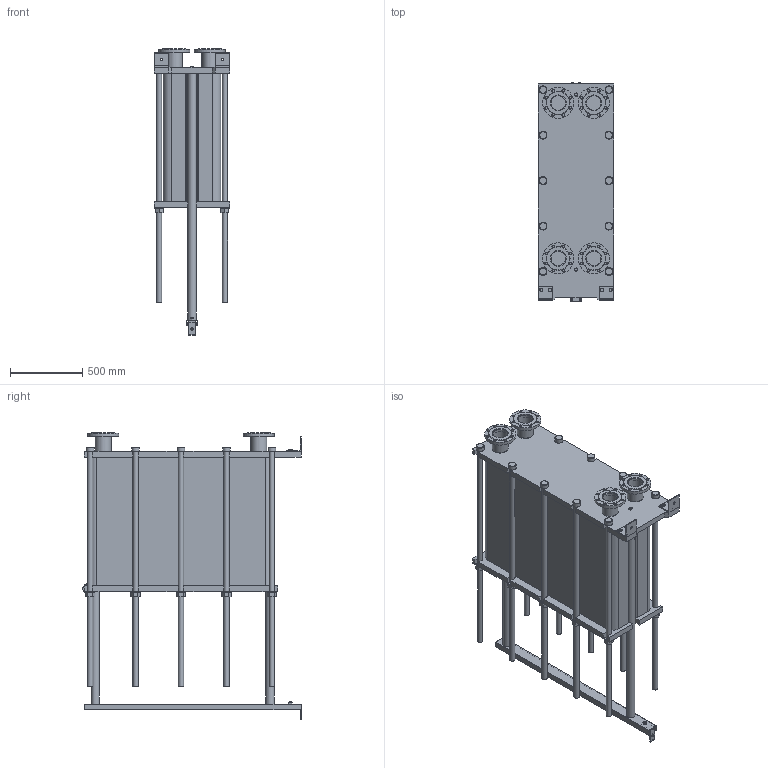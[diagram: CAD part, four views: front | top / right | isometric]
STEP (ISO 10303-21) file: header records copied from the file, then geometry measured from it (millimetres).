
FILE_DESCRIPTION(/* description */ (''),/* implementation_level */ '2;1');
FILE_NAME(/* name */ 'C:\Users\zhuro\Desktop\ENCO\TO\ЭН-04\ЭН-0,5-04-258-1.stp',/* time_stamp */ '2022-06-06T11:07:13+03:00',/* author */ ('zhuro'),/* organization */ (''),/* preprocessor_version */ 'ST-DEVELOPER v18.1',/* originating_system */ 'Autodesk Inventor 2022',/* authorisation */ '');
FILE_SCHEMA (('AUTOMOTIVE_DESIGN { 1 0 10303 214 3 1 1 }'));
Length unit declared in the file: millimetre
Products named in the file (1): ЭН-0,5-04-258-1
Bounding box: 520 x 1510 x 1984 mm (x, y, z)
Volume: 524544116.8 mm3; surface area: 11829696.9 mm2
Topology: 45 solids, 45 shells, 668 faces, 1611 edges, 1048 vertices
Faces by surface type: plane 457, cylinder 166, cone 39, torus 6
Full cylindrical faces by diameter (mm): 8 x4, 10 x2, 16 x8, 18 x35, 36 x25, 40 x2, 42 x1, 45 x4, 54 x10, 57 x2, 60 x10, 68 x2, 100 x4, 110 x8, 215 x4
Entity records: 23607 total; most frequent: CARTESIAN_POINT 7348, DIRECTION 3371, ORIENTED_EDGE 3142, EDGE_CURVE 1571, AXIS2_PLACEMENT_3D 1199, VERTEX_POINT 1044, LINE 973, VECTOR 973
